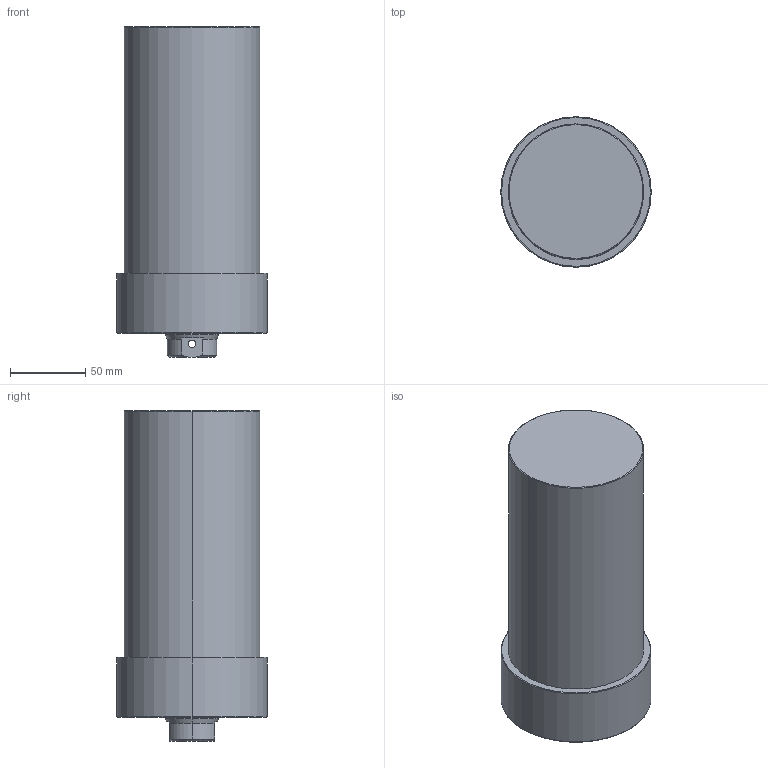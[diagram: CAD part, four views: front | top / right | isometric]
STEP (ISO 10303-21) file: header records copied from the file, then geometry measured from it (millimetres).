
FILE_DESCRIPTION (( 'STEP AP203' ), '1' );
FILE_NAME ('CLLU-090GB-120.STEP', '2020-01-13T05:54:23', ( '' ), ( '' ), 'SwSTEP 2.0', 'SolidWorks 2015', '' );
FILE_SCHEMA (( 'CONFIG_CONTROL_DESIGN' ));
Length unit declared in the file: millimetre
Products named in the file (1): CLLU-090GB-120
Bounding box: 100 x 100 x 220 mm (x, y, z)
Volume: 1350971.1 mm3; surface area: 81970 mm2
Topology: 1 solids, 1 shells, 68 faces, 155 edges, 88 vertices
Faces by surface type: cylinder 27, cone 25, plane 10, torus 6
Entity records: 2061 total; most frequent: CARTESIAN_POINT 462, DIRECTION 350, ORIENTED_EDGE 290, AXIS2_PLACEMENT_3D 148, EDGE_CURVE 145, VERTEX_POINT 88, EDGE_LOOP 81, CIRCLE 79
